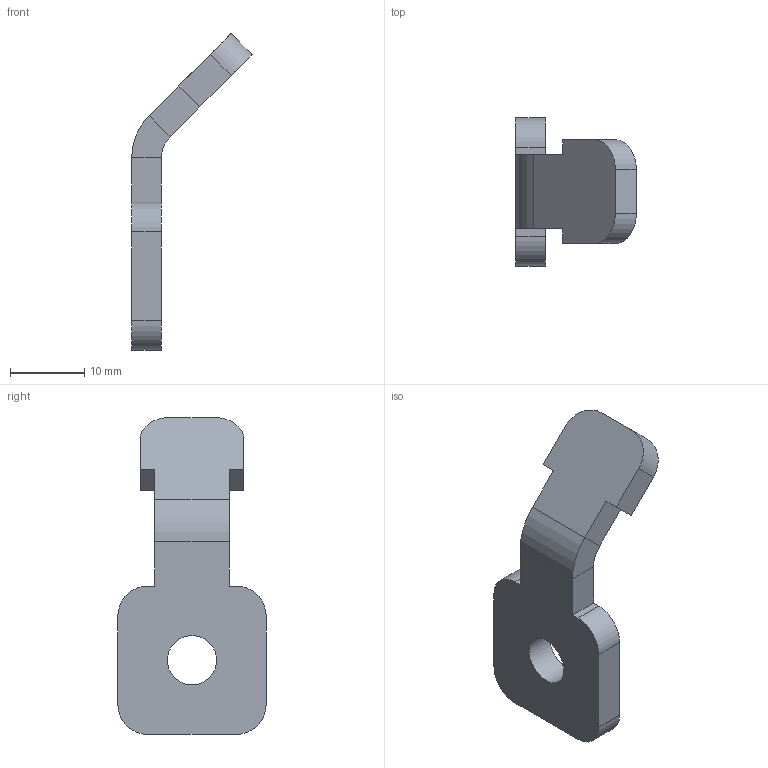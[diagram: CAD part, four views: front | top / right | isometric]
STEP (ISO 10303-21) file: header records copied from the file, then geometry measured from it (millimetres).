
FILE_DESCRIPTION(/* description */ ('NUT M8 FOR STAINLESS CONVEYOR'),/* implementation_level */ '2;1');
FILE_NAME(/* name */ '15321.stp',/* time_stamp */ '2022-09-16T10:18:44+02:00',/* author */ ('ML'),/* organization */ ('CARRYLINE'),/* preprocessor_version */ 'ST-DEVELOPER v19.2',/* originating_system */ 'Autodesk Inventor 2023',/* authorisation */ '');
FILE_SCHEMA (('AUTOMOTIVE_DESIGN { 1 0 10303 214 3 1 1 }'));
Length unit declared in the file: millimetre
Products named in the file (1): 15321
Bounding box: 16.26 x 20 x 42.75 mm (x, y, z)
Volume: 2594.7 mm3; surface area: 1902.9 mm2
Topology: 1 solids, 1 shells, 29 faces, 73 edges, 46 vertices
Faces by surface type: plane 20, cylinder 9
Full cylindrical faces by diameter (mm): 6.647 x1
Entity records: 908 total; most frequent: DIRECTION 151, CARTESIAN_POINT 149, ORIENTED_EDGE 146, EDGE_CURVE 73, LINE 55, VECTOR 55, AXIS2_PLACEMENT_3D 48, VERTEX_POINT 46
